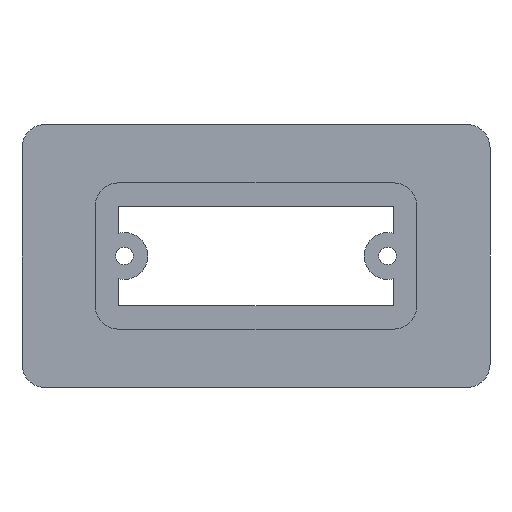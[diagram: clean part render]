
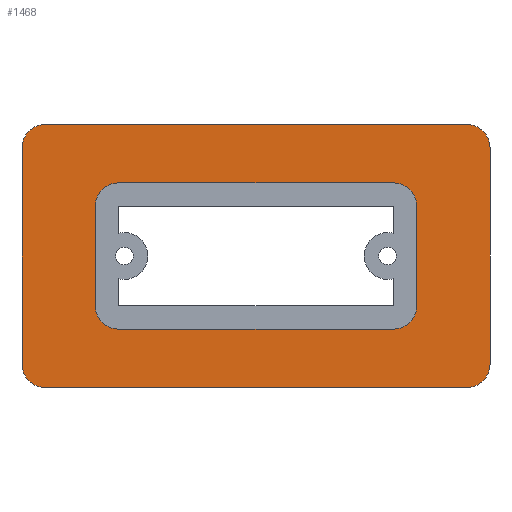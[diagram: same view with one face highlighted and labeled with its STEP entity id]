
A CAD part, front view. The second image highlights one B-rep face of the part: STEP entity #1468.
In plain terms, the highlighted planar face has unit normal (0, -1, 0).
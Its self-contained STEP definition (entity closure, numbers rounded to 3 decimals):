
#24 = DIRECTION ( 'NONE',  ( -1., 0., 0. ) ) ;
#54 = CIRCLE ( 'NONE', #1588, 4. ) ;
#79 = ORIENTED_EDGE ( 'NONE', *, *, #1254, .F. ) ;
#91 = CARTESIAN_POINT ( 'NONE',  ( -23.5, 0., -8.5 ) ) ;
#106 = DIRECTION ( 'NONE',  ( 0., 1., 0. ) ) ;
#134 = DIRECTION ( 'NONE',  ( 0., 0., 1. ) ) ;
#147 = VECTOR ( 'NONE', #1389, 1000. ) ;
#155 = VERTEX_POINT ( 'NONE', #670 ) ;
#161 = VERTEX_POINT ( 'NONE', #529 ) ;
#162 = CARTESIAN_POINT ( 'NONE',  ( -36., 0., 22.5 ) ) ;
#165 = CARTESIAN_POINT ( 'NONE',  ( -36., 0., -18.5 ) ) ;
#193 = CARTESIAN_POINT ( 'NONE',  ( 36., 0., 18.5 ) ) ;
#199 = VERTEX_POINT ( 'NONE', #790 ) ;
#207 = CARTESIAN_POINT ( 'NONE',  ( 23.5, 0., -8.5 ) ) ;
#210 = DIRECTION ( 'NONE',  ( 0., 1., 0. ) ) ;
#248 = ORIENTED_EDGE ( 'NONE', *, *, #822, .T. ) ;
#263 = CARTESIAN_POINT ( 'NONE',  ( 23.5, 0., -12.5 ) ) ;
#270 = EDGE_CURVE ( 'NONE', #578, #449, #1135, .T. ) ;
#284 = CARTESIAN_POINT ( 'NONE',  ( 27.5, 0., -12.5 ) ) ;
#296 = CARTESIAN_POINT ( 'NONE',  ( -27.5, 0., -8.5 ) ) ;
#327 = FACE_OUTER_BOUND ( 'NONE', #654, .T. ) ;
#342 = VERTEX_POINT ( 'NONE', #1506 ) ;
#346 = VECTOR ( 'NONE', #1243, 1000. ) ;
#348 = DIRECTION ( 'NONE',  ( 0., 0., 1. ) ) ;
#366 = EDGE_CURVE ( 'NONE', #1224, #608, #797, .T. ) ;
#388 = EDGE_CURVE ( 'NONE', #624, #609, #1306, .T. ) ;
#435 = CARTESIAN_POINT ( 'NONE',  ( 36., 0., 22.5 ) ) ;
#436 = LINE ( 'NONE', #957, #147 ) ;
#449 = VERTEX_POINT ( 'NONE', #263 ) ;
#457 = EDGE_CURVE ( 'NONE', #1224, #161, #909, .T. ) ;
#463 = CARTESIAN_POINT ( 'NONE',  ( 0., 0., 0. ) ) ;
#466 = VERTEX_POINT ( 'NONE', #1384 ) ;
#493 = CARTESIAN_POINT ( 'NONE',  ( 23.5, 0., 8.5 ) ) ;
#500 = CARTESIAN_POINT ( 'NONE',  ( 36., 0., -18.5 ) ) ;
#518 = CIRCLE ( 'NONE', #1528, 4. ) ;
#529 = CARTESIAN_POINT ( 'NONE',  ( -40., 0., 18.5 ) ) ;
#533 = EDGE_CURVE ( 'NONE', #466, #342, #1638, .T. ) ;
#535 = AXIS2_PLACEMENT_3D ( 'NONE', #463, #1449, #1441 ) ;
#537 = DIRECTION ( 'NONE',  ( 0., 0., 1. ) ) ;
#548 = AXIS2_PLACEMENT_3D ( 'NONE', #193, #1016, #737 ) ;
#550 = ORIENTED_EDGE ( 'NONE', *, *, #533, .T. ) ;
#578 = VERTEX_POINT ( 'NONE', #1552 ) ;
#583 = LINE ( 'NONE', #591, #997 ) ;
#591 = CARTESIAN_POINT ( 'NONE',  ( 40., 0., -22.5 ) ) ;
#593 = EDGE_CURVE ( 'NONE', #624, #800, #518, .T. ) ;
#598 = EDGE_CURVE ( 'NONE', #199, #608, #1357, .T. ) ;
#608 = VERTEX_POINT ( 'NONE', #435 ) ;
#609 = VERTEX_POINT ( 'NONE', #296 ) ;
#624 = VERTEX_POINT ( 'NONE', #1576 ) ;
#654 = EDGE_LOOP ( 'NONE', ( #958, #550, #79, #677, #1698, #1632, #887, #1648 ) ) ;
#655 = CARTESIAN_POINT ( 'NONE',  ( -36., 0., 18.5 ) ) ;
#670 = CARTESIAN_POINT ( 'NONE',  ( 23.5, 0., 12.5 ) ) ;
#677 = ORIENTED_EDGE ( 'NONE', *, *, #871, .T. ) ;
#713 = LINE ( 'NONE', #1172, #907 ) ;
#716 = VERTEX_POINT ( 'NONE', #1658 ) ;
#737 = DIRECTION ( 'NONE',  ( 0., 0., 1. ) ) ;
#747 = LINE ( 'NONE', #284, #346 ) ;
#751 = VECTOR ( 'NONE', #1344, 1000. ) ;
#755 = ORIENTED_EDGE ( 'NONE', *, *, #1750, .F. ) ;
#763 = CARTESIAN_POINT ( 'NONE',  ( -27.5, 0., -12.5 ) ) ;
#783 = DIRECTION ( 'NONE',  ( 0., 1., 0. ) ) ;
#787 = ORIENTED_EDGE ( 'NONE', *, *, #929, .T. ) ;
#788 = CARTESIAN_POINT ( 'NONE',  ( -23.5, 0., -12.5 ) ) ;
#790 = CARTESIAN_POINT ( 'NONE',  ( 40., 0., 18.5 ) ) ;
#797 = LINE ( 'NONE', #1060, #751 ) ;
#800 = VERTEX_POINT ( 'NONE', #1273 ) ;
#810 = EDGE_LOOP ( 'NONE', ( #1122, #1431, #755, #248, #1432, #1005, #983, #787 ) ) ;
#822 = EDGE_CURVE ( 'NONE', #155, #716, #1512, .T. ) ;
#871 = EDGE_CURVE ( 'NONE', #1669, #1744, #1798, .T. ) ;
#880 = AXIS2_PLACEMENT_3D ( 'NONE', #493, #210, #1752 ) ;
#887 = ORIENTED_EDGE ( 'NONE', *, *, #366, .F. ) ;
#893 = AXIS2_PLACEMENT_3D ( 'NONE', #165, #1540, #134 ) ;
#901 = EDGE_CURVE ( 'NONE', #466, #161, #713, .T. ) ;
#906 = DIRECTION ( 'NONE',  ( 0., 0., 1. ) ) ;
#907 = VECTOR ( 'NONE', #1314, 1000. ) ;
#909 = CIRCLE ( 'NONE', #1569, 4. ) ;
#929 = EDGE_CURVE ( 'NONE', #984, #609, #54, .T. ) ;
#957 = CARTESIAN_POINT ( 'NONE',  ( 27.5, 0., -12.5 ) ) ;
#958 = ORIENTED_EDGE ( 'NONE', *, *, #901, .F. ) ;
#969 = DIRECTION ( 'NONE',  ( -1., 0., 0. ) ) ;
#973 = LINE ( 'NONE', #1111, #1592 ) ;
#983 = ORIENTED_EDGE ( 'NONE', *, *, #1085, .F. ) ;
#984 = VERTEX_POINT ( 'NONE', #788 ) ;
#996 = LINE ( 'NONE', #1584, #1686 ) ;
#997 = VECTOR ( 'NONE', #24, 1000. ) ;
#1005 = ORIENTED_EDGE ( 'NONE', *, *, #270, .T. ) ;
#1016 = DIRECTION ( 'NONE',  ( 0., -1., 0. ) ) ;
#1023 = DIRECTION ( 'NONE',  ( 0., 1., 0. ) ) ;
#1060 = CARTESIAN_POINT ( 'NONE',  ( 40., 0., 22.5 ) ) ;
#1085 = EDGE_CURVE ( 'NONE', #984, #449, #747, .T. ) ;
#1107 = DIRECTION ( 'NONE',  ( 0., -1., 0. ) ) ;
#1111 = CARTESIAN_POINT ( 'NONE',  ( 27.5, 0., 12.5 ) ) ;
#1122 = ORIENTED_EDGE ( 'NONE', *, *, #388, .F. ) ;
#1135 = CIRCLE ( 'NONE', #1242, 4. ) ;
#1153 = DIRECTION ( 'NONE',  ( 0., 0., 1. ) ) ;
#1167 = AXIS2_PLACEMENT_3D ( 'NONE', #500, #1610, #906 ) ;
#1172 = CARTESIAN_POINT ( 'NONE',  ( -40., 0., 22.5 ) ) ;
#1187 = EDGE_CURVE ( 'NONE', #578, #716, #436, .T. ) ;
#1210 = DIRECTION ( 'NONE',  ( 0., 0., 1. ) ) ;
#1213 = VECTOR ( 'NONE', #1533, 1000. ) ;
#1214 = CARTESIAN_POINT ( 'NONE',  ( 36., 0., -22.5 ) ) ;
#1224 = VERTEX_POINT ( 'NONE', #162 ) ;
#1242 = AXIS2_PLACEMENT_3D ( 'NONE', #207, #783, #348 ) ;
#1243 = DIRECTION ( 'NONE',  ( 1., 0., 0. ) ) ;
#1248 = CARTESIAN_POINT ( 'NONE',  ( 40., 0., -18.5 ) ) ;
#1254 = EDGE_CURVE ( 'NONE', #1669, #342, #583, .T. ) ;
#1273 = CARTESIAN_POINT ( 'NONE',  ( -23.5, 0., 12.5 ) ) ;
#1306 = LINE ( 'NONE', #763, #1213 ) ;
#1314 = DIRECTION ( 'NONE',  ( 0., 0., 1. ) ) ;
#1344 = DIRECTION ( 'NONE',  ( 1., 0., 0. ) ) ;
#1357 = CIRCLE ( 'NONE', #548, 4. ) ;
#1384 = CARTESIAN_POINT ( 'NONE',  ( -40., 0., -18.5 ) ) ;
#1389 = DIRECTION ( 'NONE',  ( 0., 0., 1. ) ) ;
#1431 = ORIENTED_EDGE ( 'NONE', *, *, #593, .T. ) ;
#1432 = ORIENTED_EDGE ( 'NONE', *, *, #1187, .F. ) ;
#1441 = DIRECTION ( 'NONE',  ( 0., 0., 1. ) ) ;
#1449 = DIRECTION ( 'NONE',  ( 0., 1., 0. ) ) ;
#1468 = ADVANCED_FACE ( 'NONE', ( #327, #1819 ), #1600, .F. ) ;
#1481 = EDGE_CURVE ( 'NONE', #199, #1744, #996, .T. ) ;
#1506 = CARTESIAN_POINT ( 'NONE',  ( -36., 0., -22.5 ) ) ;
#1512 = CIRCLE ( 'NONE', #880, 4. ) ;
#1528 = AXIS2_PLACEMENT_3D ( 'NONE', #1566, #1023, #1153 ) ;
#1533 = DIRECTION ( 'NONE',  ( 0., 0., -1. ) ) ;
#1540 = DIRECTION ( 'NONE',  ( 0., -1., 0. ) ) ;
#1552 = CARTESIAN_POINT ( 'NONE',  ( 27.5, 0., -8.5 ) ) ;
#1566 = CARTESIAN_POINT ( 'NONE',  ( -23.5, 0., 8.5 ) ) ;
#1569 = AXIS2_PLACEMENT_3D ( 'NONE', #655, #1107, #537 ) ;
#1576 = CARTESIAN_POINT ( 'NONE',  ( -27.5, 0., 8.5 ) ) ;
#1584 = CARTESIAN_POINT ( 'NONE',  ( 40., 0., 22.5 ) ) ;
#1588 = AXIS2_PLACEMENT_3D ( 'NONE', #91, #106, #1210 ) ;
#1592 = VECTOR ( 'NONE', #969, 1000. ) ;
#1600 = PLANE ( 'NONE',  #535 ) ;
#1610 = DIRECTION ( 'NONE',  ( 0., -1., 0. ) ) ;
#1632 = ORIENTED_EDGE ( 'NONE', *, *, #598, .T. ) ;
#1638 = CIRCLE ( 'NONE', #893, 4. ) ;
#1648 = ORIENTED_EDGE ( 'NONE', *, *, #457, .T. ) ;
#1658 = CARTESIAN_POINT ( 'NONE',  ( 27.5, 0., 8.5 ) ) ;
#1669 = VERTEX_POINT ( 'NONE', #1214 ) ;
#1686 = VECTOR ( 'NONE', #1733, 1000. ) ;
#1698 = ORIENTED_EDGE ( 'NONE', *, *, #1481, .F. ) ;
#1733 = DIRECTION ( 'NONE',  ( 0., 0., -1. ) ) ;
#1744 = VERTEX_POINT ( 'NONE', #1248 ) ;
#1750 = EDGE_CURVE ( 'NONE', #155, #800, #973, .T. ) ;
#1752 = DIRECTION ( 'NONE',  ( 0., 0., 1. ) ) ;
#1798 = CIRCLE ( 'NONE', #1167, 4. ) ;
#1819 = FACE_BOUND ( 'NONE', #810, .T. ) ;
